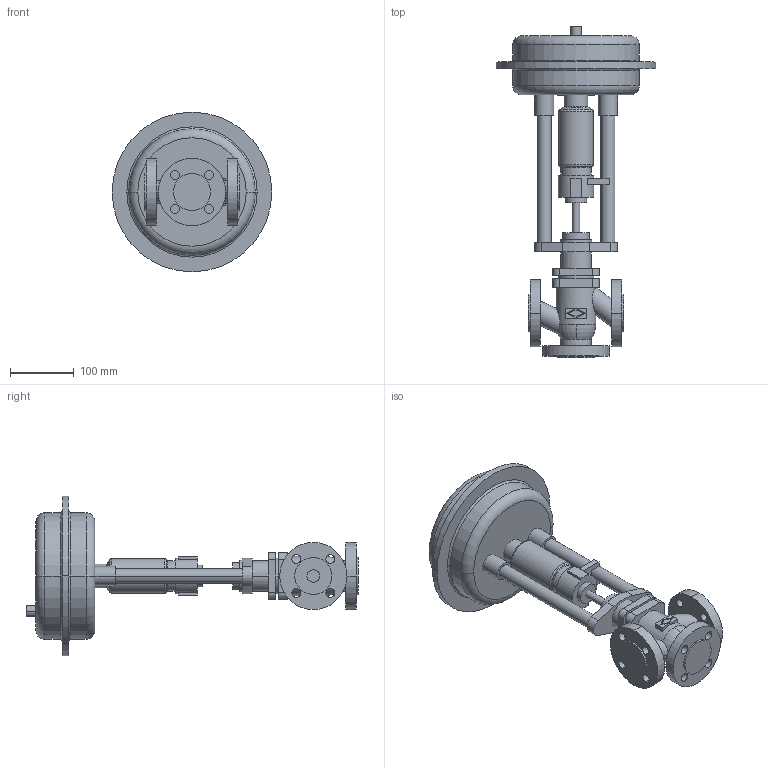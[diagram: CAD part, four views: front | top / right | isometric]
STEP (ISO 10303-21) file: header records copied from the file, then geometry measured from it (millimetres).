
FILE_DESCRIPTION(('OneSpaceDesigner STEP Export'),'2;1');
FILE_NAME('c000000768.stp','2006-09-13T12:38:19',(''),(''),'OneSpace Designer STEP processor for AP214 (Solid Model)','OneSpace Designer 13.20A 18-Aug-2005 (C) CoCreate Software GmbH','');
FILE_SCHEMA(('AUTOMOTIVE_DESIGN { 1 0 10303 214 1 1 1 1 }'));
Length unit declared in the file: millimetre
Products named in the file (2): 1; 2
Bounding box: 250 x 520 x 250 mm (x, y, z)
Volume: 4575418.9 mm3; surface area: 349264 mm2
Topology: 2 solids, 2 shells, 199 faces, 481 edges, 316 vertices
Faces by surface type: cylinder 96, plane 81, torus 18, cone 4
Entity records: 5323 total; most frequent: CARTESIAN_POINT 983, ORIENTED_EDGE 962, DIRECTION 800, EDGE_CURVE 481, VERTEX_POINT 316, AXIS2_PLACEMENT_3D 289, EDGE_LOOP 253, VECTOR 222
